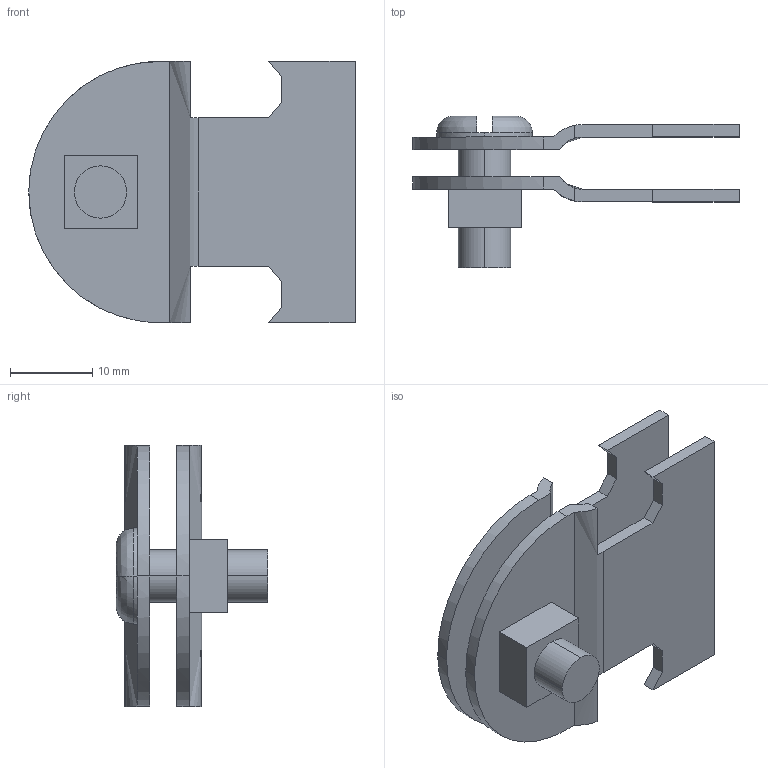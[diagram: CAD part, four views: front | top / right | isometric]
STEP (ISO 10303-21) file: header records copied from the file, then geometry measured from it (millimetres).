
FILE_DESCRIPTION(('TurboCAD Mac Pro'),'Build 980');
FILE_NAME('P2024.stp',' ',(''),(''),'ACIS Interop','IMSI','TurboCAD Mac Pro BY IMSI, INCORPORATED');
FILE_SCHEMA(('automotive_design'));
Length unit declared in the file: inch
Products named in the file (5): 1; 2; 3; 4; 5
Bounding box: 39.69 x 18.41 x 31.74 mm (x, y, z)
Volume: 4028.4 mm3; surface area: 5554.5 mm2
Topology: 4 solids, 4 shells, 75 faces, 192 edges, 126 vertices
Faces by surface type: plane 51, bspline 24
Entity records: 3747 total; most frequent: CARTESIAN_POINT 1266, ORIENTED_EDGE 384, DIRECTION 242, EDGE_CURVE 192, LINE 126, VECTOR 126, VERTEX_POINT 126, STYLED_ITEM 95
